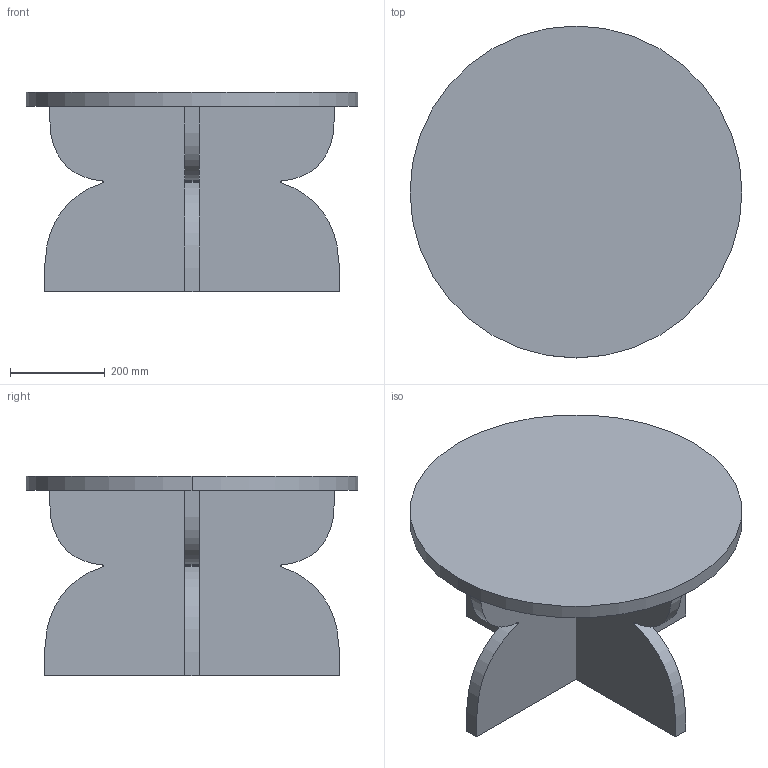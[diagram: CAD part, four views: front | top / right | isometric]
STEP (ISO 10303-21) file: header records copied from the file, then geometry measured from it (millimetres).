
FILE_DESCRIPTION (( 'STEP AP214' ), '1' );
FILE_NAME ('CHESS Table - 70 Large.STEP', '2025-03-25T10:29:24', ( '' ), ( '' ), 'SwSTEP 2.0', 'SolidWorks 2020', '' );
FILE_SCHEMA (( 'AUTOMOTIVE_DESIGN' ));
Length unit declared in the file: millimetre
Products named in the file (4): CHESS Table - 70 Large; SW-chess_low base_70 base ovan; SW-chess_low base_70 base under; SW-chess_top_70
Assembly tree (3 placements, depth 2):
  CHESS Table - 70 Large
    SW-chess_top_70
    SW-chess_low base_70 base ovan
    SW-chess_low base_70 base under
Bounding box: 700 x 700 x 421 mm (x, y, z)
Volume: 24866698.9 mm3; surface area: 1858272.4 mm2
Topology: 3 solids, 3 shells, 26 faces, 60 edges, 40 vertices
Faces by surface type: plane 10, cylinder 8, bspline 8
Entity records: 990 total; most frequent: CARTESIAN_POINT 284, ORIENTED_EDGE 120, DIRECTION 108, EDGE_CURVE 60, AXIS2_PLACEMENT_3D 40, VERTEX_POINT 40, VECTOR 28, LINE 28
